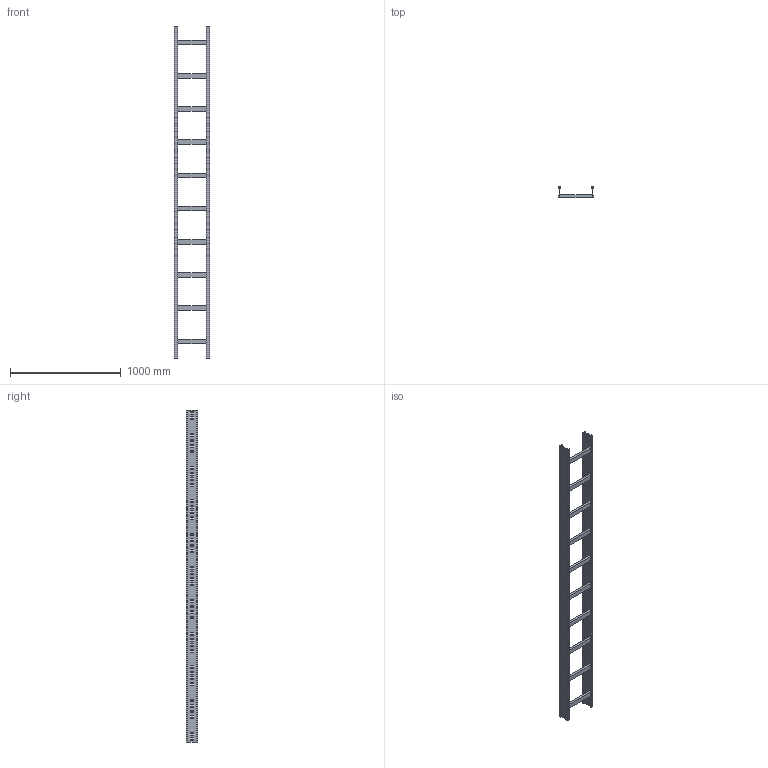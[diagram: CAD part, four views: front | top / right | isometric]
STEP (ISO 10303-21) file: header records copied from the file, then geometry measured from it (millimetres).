
FILE_DESCRIPTION (( 'STEP AP214' ), '1' );
FILE_NAME ('01S3D300.step', '2025-02-21T16:19:38', ( '' ), ( '' ), 'SwSTEP 2.0', 'SolidWorks 2023', '' );
FILE_SCHEMA (( 'AUTOMOTIVE_DESIGN' ));
Length unit declared in the file: millimetre
Products named in the file (3): TRAVERSINO_300; LONGH.H100; 01S3D300
Assembly tree (12 placements, depth 2):
  01S3D300
    LONGH.H100  x2
    TRAVERSINO_300  x10
Bounding box: 318 x 100 x 3000 mm (x, y, z)
Volume: 5533200 mm3; surface area: 2104011 mm2
Topology: 12 solids, 12 shells, 728 faces, 2112 edges, 1408 vertices
Faces by surface type: plane 728
Entity records: 11620 total; most frequent: CARTESIAN_POINT 2035, ORIENTED_EDGE 2016, DIRECTION 1718, LINE 1008, VECTOR 1008, EDGE_CURVE 1008, VERTEX_POINT 672, EDGE_LOOP 500
